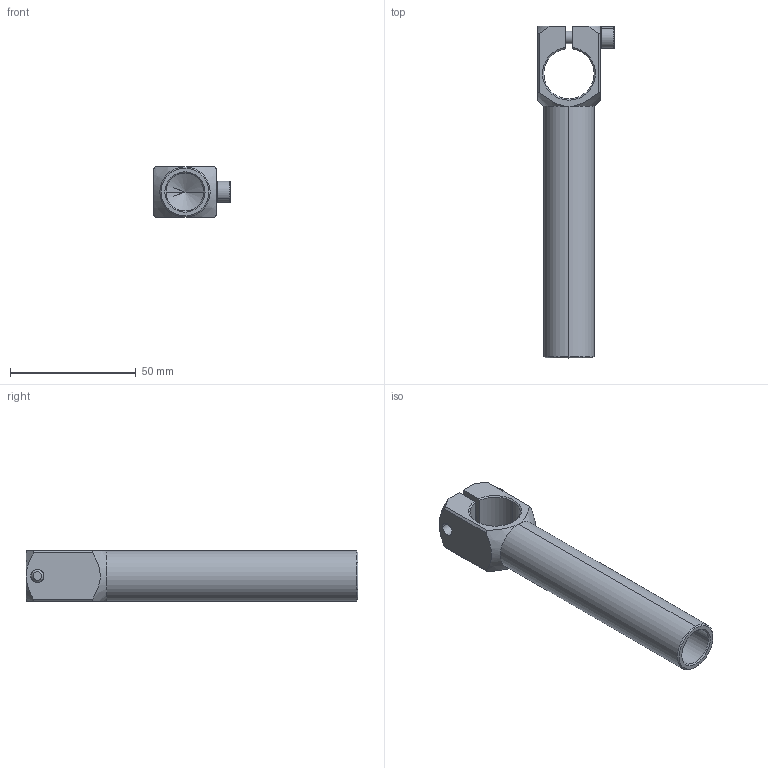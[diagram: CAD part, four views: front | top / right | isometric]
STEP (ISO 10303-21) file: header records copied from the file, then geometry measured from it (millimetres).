
FILE_DESCRIPTION (( 'STEP AP214' ), '1' );
FILE_NAME ('SCA1-2020L100.STEP', '2019-11-07T05:50:53', ( '微软用户' ), ( '微软中国' ), 'SwSTEP 2.0', 'SolidWorks 2016', '' );
FILE_SCHEMA (( 'AUTOMOTIVE_DESIGN' ));
Length unit declared in the file: millimetre
Products named in the file (1): SCA1-2020L100
Bounding box: 30.6 x 132 x 20 mm (x, y, z)
Volume: 25994.3 mm3; surface area: 15488.3 mm2
Topology: 3 solids, 3 shells, 256 faces, 724 edges, 473 vertices
Faces by surface type: plane 211, cylinder 23, cone 20, bspline 2
Entity records: 11432 total; most frequent: CARTESIAN_POINT 1745, DIRECTION 1458, ORIENTED_EDGE 1444, EDGE_CURVE 722, AXIS2_PLACEMENT_3D 503, VERTEX_POINT 473, LINE 452, VECTOR 452
